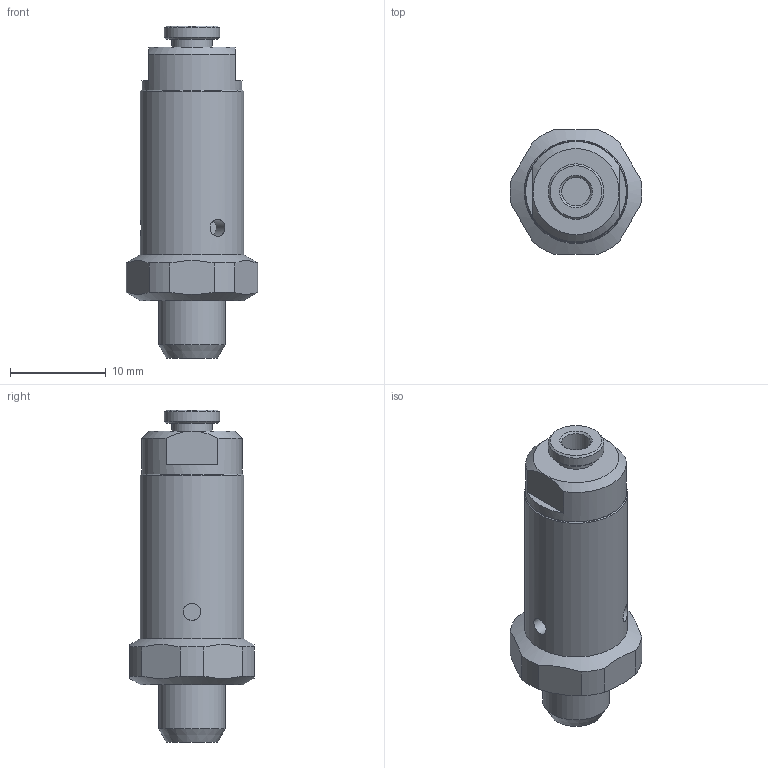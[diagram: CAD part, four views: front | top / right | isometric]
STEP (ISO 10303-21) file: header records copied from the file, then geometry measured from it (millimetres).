
FILE_DESCRIPTION(/* description */ ('V. S.RAPIDO IN TUBO d.3 OUT M7'),/* implementation_level */ '2;1');
FILE_NAME(/* name */ 'I:\Area Tecnica\Disegni\VARIE-3D\Componenti\600\6_02_##_##_L\6_02_03_M7_L.stp',/* time_stamp */ '2017-01-20T13:58:51+01:00',/* author */ ('maniean1'),/* organization */ ('Pneumax S.p.A.'),/* preprocessor_version */ 'ST-DEVELOPER v15.2',/* originating_system */ 'Autodesk Inventor 2014',/* authorisation */ '');
FILE_SCHEMA (('AUTOMOTIVE_DESIGN { 1 0 10303 214 3 1 1 }'));
Length unit declared in the file: millimetre
Products named in the file (1): 6_02_03_M7_L
Bounding box: 13.77 x 13 x 34.7 mm (x, y, z)
Volume: 2759.8 mm3; surface area: 1458.3 mm2
Topology: 1 solids, 1 shells, 44 faces, 94 edges, 60 vertices
Faces by surface type: plane 20, cylinder 15, cone 9
Full cylindrical faces by diameter (mm): 1.8 x3, 3 x1, 4.2 x1, 5.8 x1, 7 x1, 10.5 x1, 10.8 x1
Entity records: 1186 total; most frequent: CARTESIAN_POINT 308, DIRECTION 184, ORIENTED_EDGE 150, AXIS2_PLACEMENT_3D 83, EDGE_CURVE 75, EDGE_LOOP 68, VERTEX_POINT 57, ADVANCED_FACE 44
